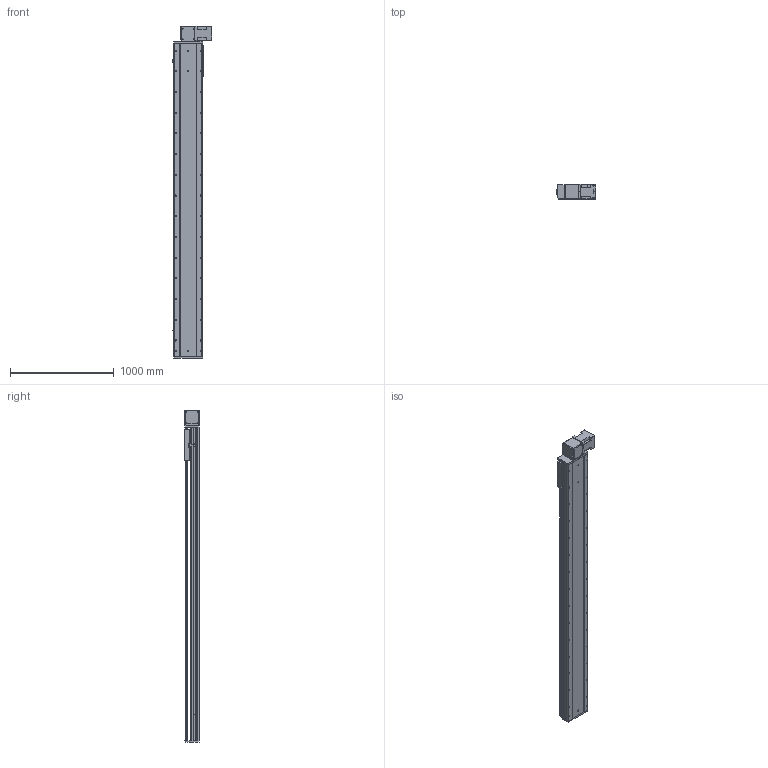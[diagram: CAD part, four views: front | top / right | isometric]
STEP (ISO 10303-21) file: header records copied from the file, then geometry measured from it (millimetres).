
FILE_DESCRIPTION (( 'STEP AP214' ), '1' );
FILE_NAME ('RTB28S-XX-2600-BL-M100-XX-C4.STEP', '2025-12-22T02:34:12', ( '' ), ( '' ), 'SwSTEP 2.0', 'SolidWorks 2018', '' );
FILE_SCHEMA (( 'AUTOMOTIVE_DESIGN' ));
Length unit declared in the file: millimetre
Products named in the file (4): RTB28S-XX-2600-BL-M100-XX-C4; RTB28S-GY-004^RTB28S-XX-XX-BL-M100-XX-C4; RTB28S-GY-011^RTB28S-XX-XX-BL-M100-XX-C4; RTB28S-GY-008^RTB28S-XX-XX-BL-M100-XX-C4
Assembly tree (3 placements, depth 2):
  RTB28S-XX-2600-BL-M100-XX-C4
    RTB28S-GY-011^RTB28S-XX-XX-BL-M100-XX-C4
    RTB28S-GY-004^RTB28S-XX-XX-BL-M100-XX-C4
    RTB28S-GY-008^RTB28S-XX-XX-BL-M100-XX-C4
Bounding box: 380.7 x 145 x 3207 mm (x, y, z)
Volume: 54808708.3 mm3; surface area: 5135712.6 mm2
Topology: 3 solids, 4 shells, 868 faces, 2328 edges, 1488 vertices
Faces by surface type: cylinder 423, plane 361, cone 80, torus 4
Entity records: 33401 total; most frequent: CARTESIAN_POINT 6202, DIRECTION 4950, ORIENTED_EDGE 4592, EDGE_CURVE 2296, AXIS2_PLACEMENT_3D 1820, VERTEX_POINT 1488, LINE 1310, VECTOR 1310
